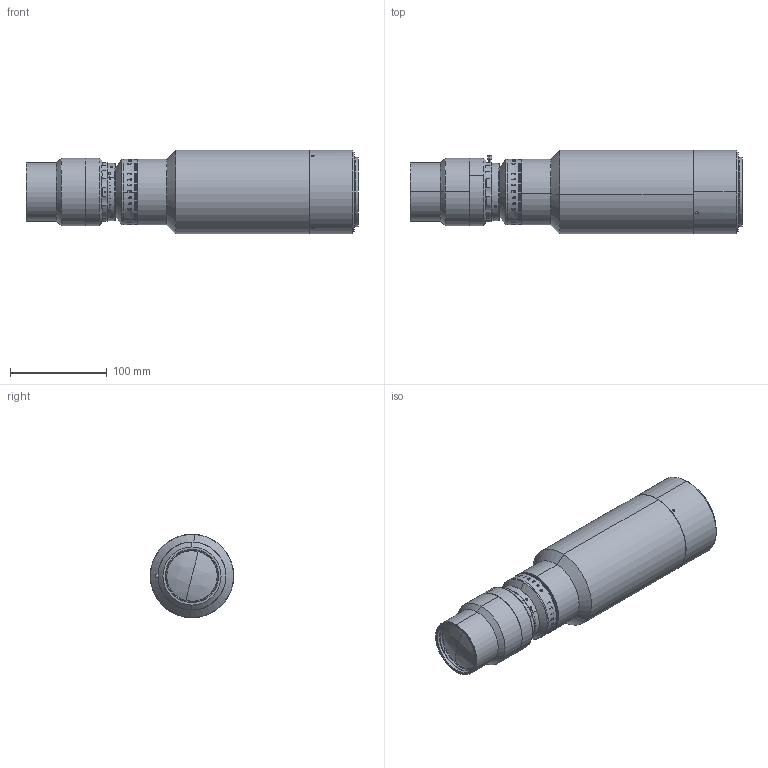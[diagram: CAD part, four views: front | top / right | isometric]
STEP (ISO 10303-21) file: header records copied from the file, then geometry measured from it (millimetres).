
FILE_DESCRIPTION (( 'STEP AP203' ), '1' );
FILE_NAME ('XF-PTL03757-M72-11.48-VI.STEP', '2019-06-13T05:36:11', ( 'canrill005' ), ( '' ), 'SwSTEP 2.0', 'SolidWorks 2014', '' );
FILE_SCHEMA (( 'CONFIG_CONTROL_DESIGN' ));
Length unit declared in the file: millimetre
Products named in the file (2): XF-PTL03757-M72-11.48-VI
Bounding box: 342.77 x 86 x 86 mm (x, y, z)
Surface area: 114759.2 mm2 (no closed solid volume)
Topology: 0 solids, 70 shells, 267 faces, 1859 edges, 1641 vertices
Faces by surface type: cylinder 156, plane 66, cone 34, bspline 9, sphere 2
Entity records: 31202 total; most frequent: CARTESIAN_POINT 18335, DIRECTION 2373, ORIENTED_EDGE 2233, EDGE_CURVE 1859, VERTEX_POINT 1641, AXIS2_PLACEMENT_3D 909, B_SPLINE_CURVE_WITH_KNOTS 655, CIRCLE 649
